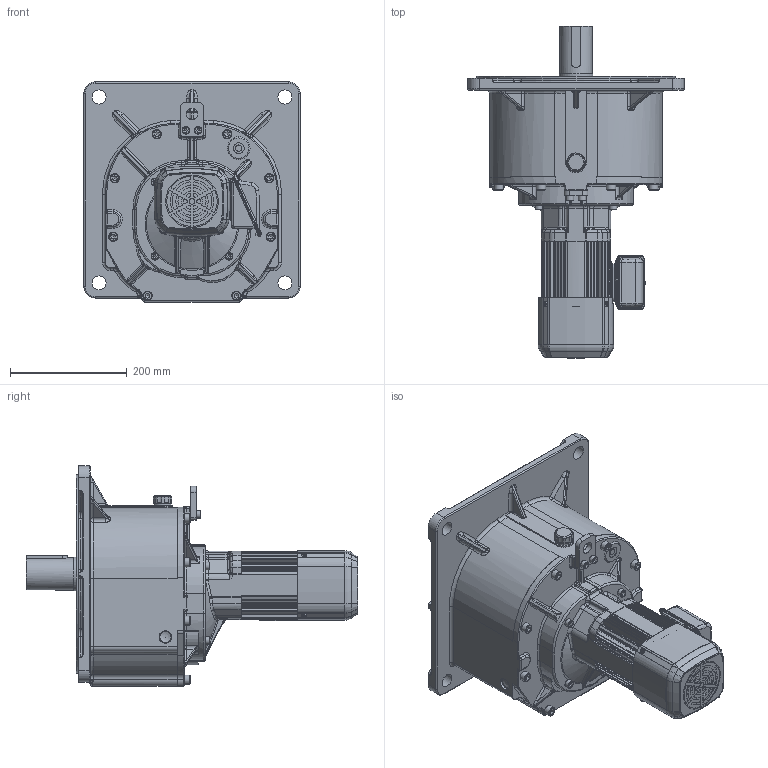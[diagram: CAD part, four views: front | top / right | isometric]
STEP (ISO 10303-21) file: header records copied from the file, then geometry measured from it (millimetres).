
FILE_DESCRIPTION( ( 'Unknown' ), '1' );
FILE_NAME( 'W:/gm/3D-WEB/GM-D/完成品/パーツ/完成品/完成品(GM-D_ﾌﾗﾝｼﾞ取付_0.4kW_ﾌﾞﾚｰｷ付き_MM_540-900).stp', 'Unknown', ( 'Unknown' ), ( 'Unknown' ), 'PSStep 11.0', 'Unknown', ' ' );
FILE_SCHEMA( ( 'AUTOMOTIVE_DESIGN { 1 0 10303 214 1 1 1 1 }' ) );
Length unit declared in the file: millimetre
Products named in the file (2): PF08081_GÊß¯·Ý(M55)
Bounding box: 370 x 568 x 377 mm (x, y, z)
Volume: 16918687.8 mm3; surface area: 1202104.3 mm2
Topology: 2 solids, 54 shells, 2731 faces, 6818 edges, 4218 vertices
Faces by surface type: cylinder 1087, plane 950, bspline 284, torus 266, cone 106, sphere 38
Full cylindrical faces by diameter (mm): 3.3 x4, 3.8 x6, 4 x4, 4.134 x8, 4.5 x8, 4.6 x4, 4.8 x1, 5.6 x1, 5.8 x4, 6 x4, 6.647 x6, 7 x5, 8 x6, 8.376 x10, 8.4 x1, 9.3 x4, 10 x16, 10.98 x1, 11 x10, 12 x8, 13 x6, 13.5 x2, 15 x1, 16 x10, 18 x1, 18.5 x4, 19.727 x2, 20 x1, 21 x2, 21.6 x2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
Entity records: 140836 total; most frequent: CARTESIAN_POINT 56680, DIRECTION 13394, ORIENTED_EDGE 12562, EDGE_CURVE 6281, AXIS2_PLACEMENT_3D 5407, VERTEX_POINT 4064, EDGE_LOOP 3177, FACE_OUTER_BOUND 2938
